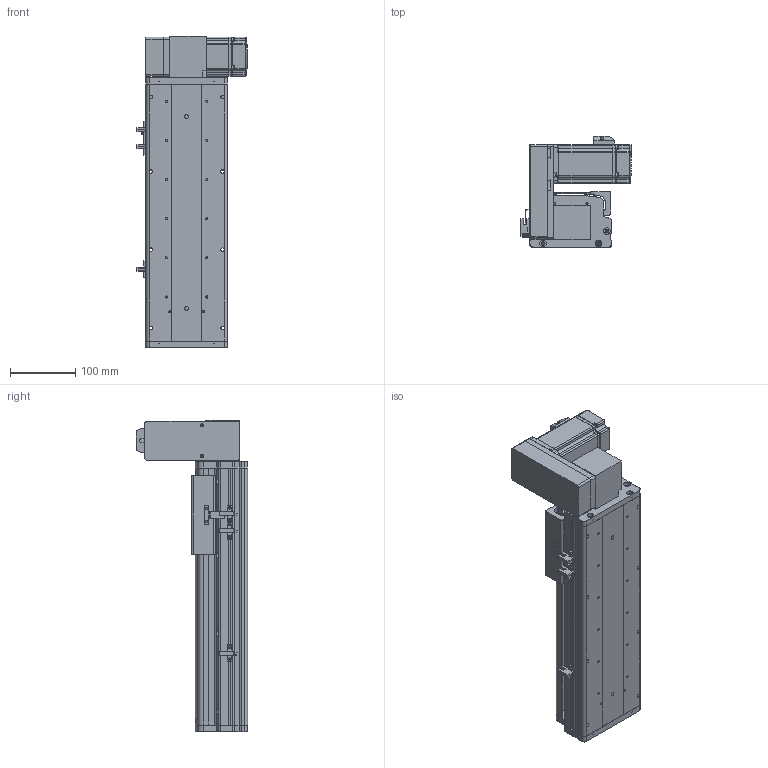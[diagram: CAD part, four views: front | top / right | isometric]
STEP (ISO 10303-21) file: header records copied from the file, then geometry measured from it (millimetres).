
FILE_DESCRIPTION (( 'STEP AP214' ), '1' );
FILE_NAME ('KSD125B-S200-MRU-CM.STEP', '2017-10-21T07:19:19', ( '微软用户' ), ( '微软中国' ), 'SwSTEP 2.0', 'SolidWorks 2014', '' );
FILE_SCHEMA (( 'AUTOMOTIVE_DESIGN' ));
Length unit declared in the file: millimetre
Products named in the file (17): 悵誘欶奻狟殏; HTPA30S3M150_A_H6_a佪裝蚚; HTPA30S3M150_A_H6_a萇儂蚚; 100宽马达安装板连板上下折丝杆同步带; KSD125模组200行程同步带-防尘盖; 125模组200行程同步带-底板; MHMD042G1CA_2_03; KSD125模组同步带-防撞垫2; 覜茼え68遵圉猾敕; U倰嫖萇假蚾璃; U倰嫖萇EEㄜSX672; KSD125模组同步带-防撞垫1; 100宽马达安装板同步带右; 前端板-125宽模组同步带; 125模组同步带-尾端板1; KSD125模组同步带-滑动座1; KSD125B-S200-MRU-CM
Assembly tree (20 placements, depth 2):
  KSD125B-S200-MRU-CM
    KSD125模组同步带-滑动座1
    125模组同步带-尾端板1
    前端板-125宽模组同步带
    100宽马达安装板同步带右
    KSD125模组同步带-防撞垫1
    U倰嫖萇EEㄜSX672  x3
    U倰嫖萇假蚾璃  x3
    覜茼え68遵圉猾敕
    KSD125模组同步带-防撞垫2
    MHMD042G1CA_2_03
    125模组200行程同步带-底板
    KSD125模组200行程同步带-防尘盖
    100宽马达安装板连板上下折丝杆同步带
    HTPA30S3M150_A_H6_a萇儂蚚
    HTPA30S3M150_A_H6_a佪裝蚚
    悵誘欶奻狟殏
Bounding box: 168.7 x 170.5 x 477 mm (x, y, z)
Volume: 1790046.3 mm3; surface area: 647864.5 mm2
Topology: 19 solids, 22 shells, 2199 faces, 6361 edges, 4202 vertices
Faces by surface type: cylinder 1356, plane 716, cone 105, bspline 22
Entity records: 77651 total; most frequent: CARTESIAN_POINT 15387, DIRECTION 12086, ORIENTED_EDGE 11242, EDGE_CURVE 5699, AXIS2_PLACEMENT_3D 4653, VERTEX_POINT 3794, LINE 2780, VECTOR 2780
